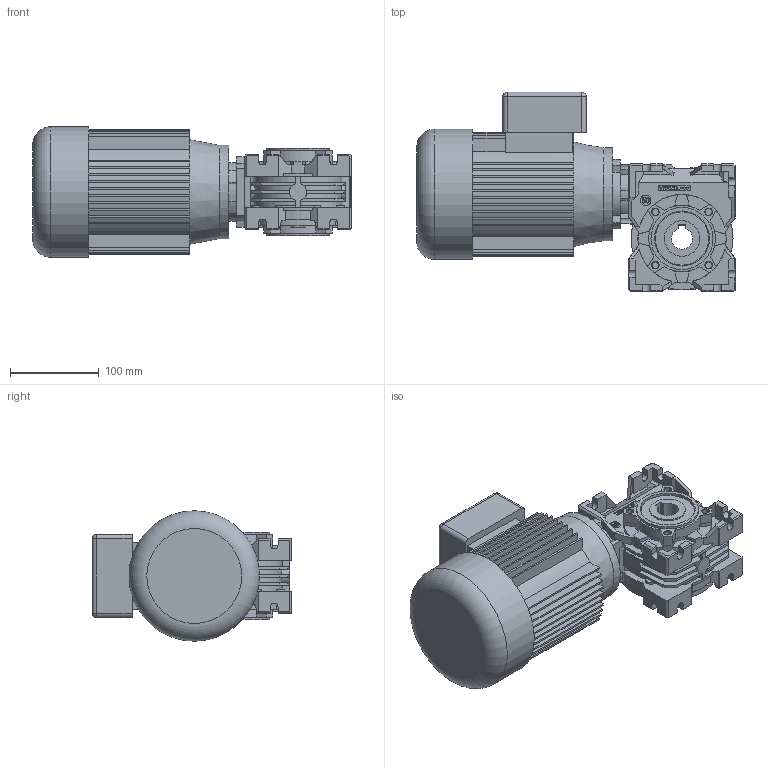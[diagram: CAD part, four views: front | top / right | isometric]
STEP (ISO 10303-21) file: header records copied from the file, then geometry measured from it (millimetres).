
FILE_DESCRIPTION( ( 'Unknown' ), '1' );
FILE_NAME( 'E:/services/configuratordownloads/customers/VARVEL/RT/download/57F3BEF906FAA74D7ECF165731B7E53/STEP/57F3BEF906FAA74D7ECF165731B7E53.3d.stp', 'Unknown', ( 'Unknown' ), ( 'Unknown' ), 'PSStep 10.1', 'Unknown', ' ' );
FILE_SCHEMA( ( 'AUTOMOTIVE_DESIGN { 1 0 10303 214 1 1 1 1 }' ) );
Length unit declared in the file: millimetre
Products named in the file (1): 532101
Bounding box: 359 x 225 x 147 mm (x, y, z)
Volume: 4139151.8 mm3; surface area: 425649.7 mm2
Topology: 1 solids, 5 shells, 1150 faces, 3146 edges, 2070 vertices
Faces by surface type: plane 890, cylinder 219, cone 35, sphere 4, torus 2
Full cylindrical faces by diameter (mm): 5 x8, 7 x8, 7.6 x4, 8.5 x4, 12 x1, 14 x1, 17 x1, 18 x1, 20 x1, 40 x2, 45 x1, 47 x2, 59 x1, 60 x1, 60.1 x4, 61 x1, 62 x2, 68 x2, 68.4 x1, 69 x1, 70 x3, 90 x1, 105 x1, 147 x1
Entity records: 45021 total; most frequent: CARTESIAN_POINT 6709, ORIENTED_EDGE 6080, DIRECTION 5853, EDGE_CURVE 3040, LINE 2381, VECTOR 2381, VERTEX_POINT 2042, AXIS2_PLACEMENT_3D 1736
